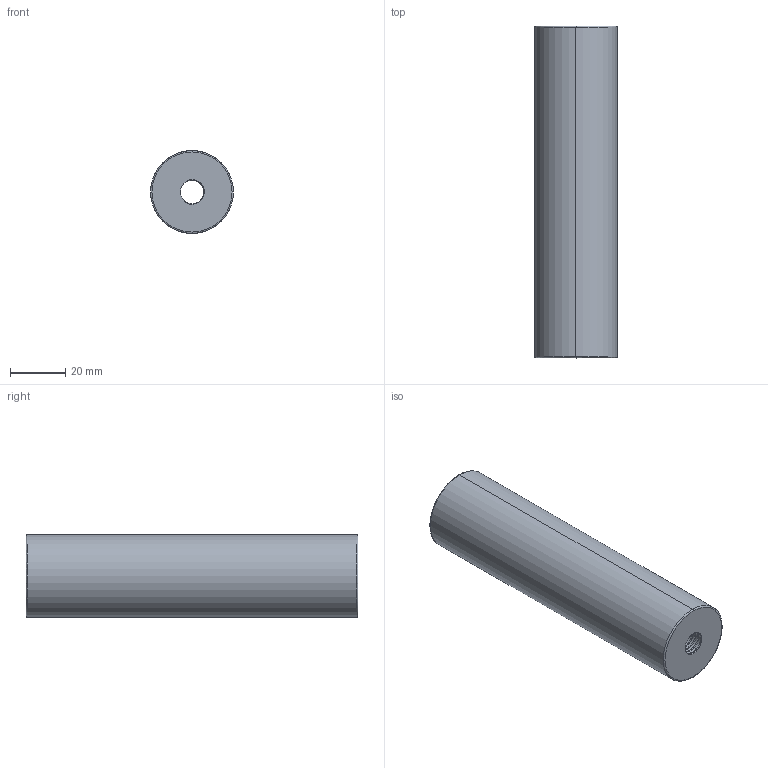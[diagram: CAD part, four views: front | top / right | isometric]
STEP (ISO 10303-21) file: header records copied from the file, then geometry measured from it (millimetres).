
FILE_DESCRIPTION( ( 'STEP AP203' ), '1' );
FILE_NAME( 'D:/Delta 3 D/D40/D40 - 30x120.step', '2002-12-31T23:07:44', ( ' ' ), ( ' ' ), 'XStep 1.0', ' ', ' ' );
FILE_SCHEMA( ( 'CONFIG_CONTROL_DESIGN' ) );
Length unit declared in the file: metre
Products named in the file (1): 1
Bounding box: 30 x 120 x 30 mm (x, y, z)
Volume: 31677 mm3; surface area: 21295.8 mm2
Topology: 1 solids, 1 shells, 60 faces, 159 edges, 102 vertices
Faces by surface type: revolution 45, bspline 15
Entity records: 3482 total; most frequent: CARTESIAN_POINT 2210, ORIENTED_EDGE 318, EDGE_CURVE 159, DIRECTION 148, VERTEX_POINT 102, B_SPLINE_CURVE_WITH_KNOTS 70, EDGE_LOOP 63, ADVANCED_FACE 60
